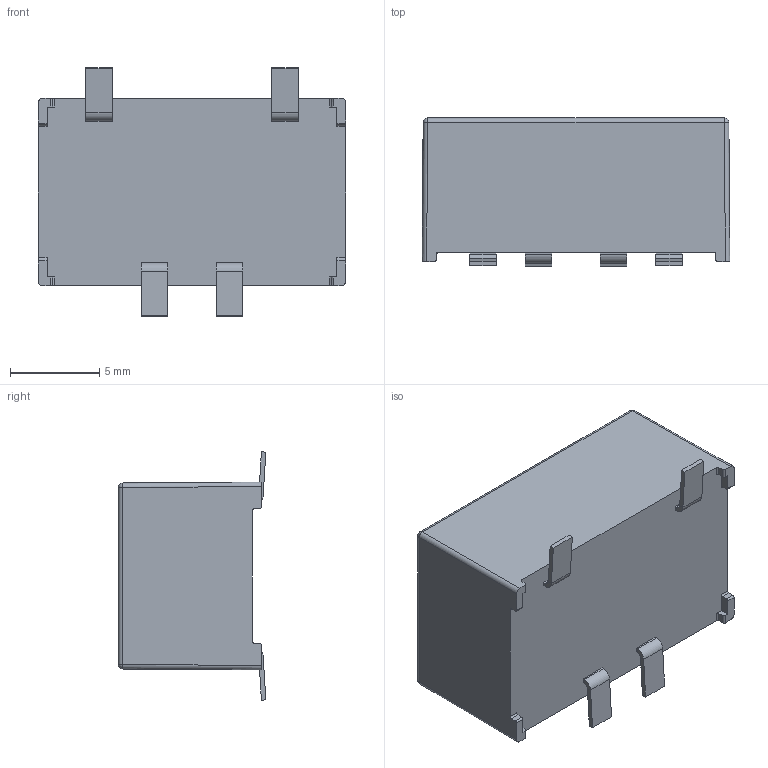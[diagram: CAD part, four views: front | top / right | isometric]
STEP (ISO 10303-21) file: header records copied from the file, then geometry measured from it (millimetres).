
FILE_DESCRIPTION (( 'STEP AP203' ), '1' );
FILE_NAME ('219-1-X Website Model.STEP', '2024-04-10T11:19:25', ( '' ), ( '' ), 'SwSTEP 2.0', 'SolidWorks 2023', '' );
FILE_SCHEMA (( 'CONFIG_CONTROL_DESIGN' ));
Length unit declared in the file: millimetre
Products named in the file (1): 219-1-X Website Model
Bounding box: 17.2 x 8.26 x 13.89 mm (x, y, z)
Volume: 1350.5 mm3; surface area: 817.4 mm2
Topology: 1 solids, 1 shells, 228 faces, 580 edges, 372 vertices
Faces by surface type: plane 167, cylinder 32, bspline 25, sphere 4
Entity records: 8043 total; most frequent: CARTESIAN_POINT 2698, ORIENTED_EDGE 1160, DIRECTION 946, EDGE_CURVE 580, LINE 466, VECTOR 466, VERTEX_POINT 372, EDGE_LOOP 246
